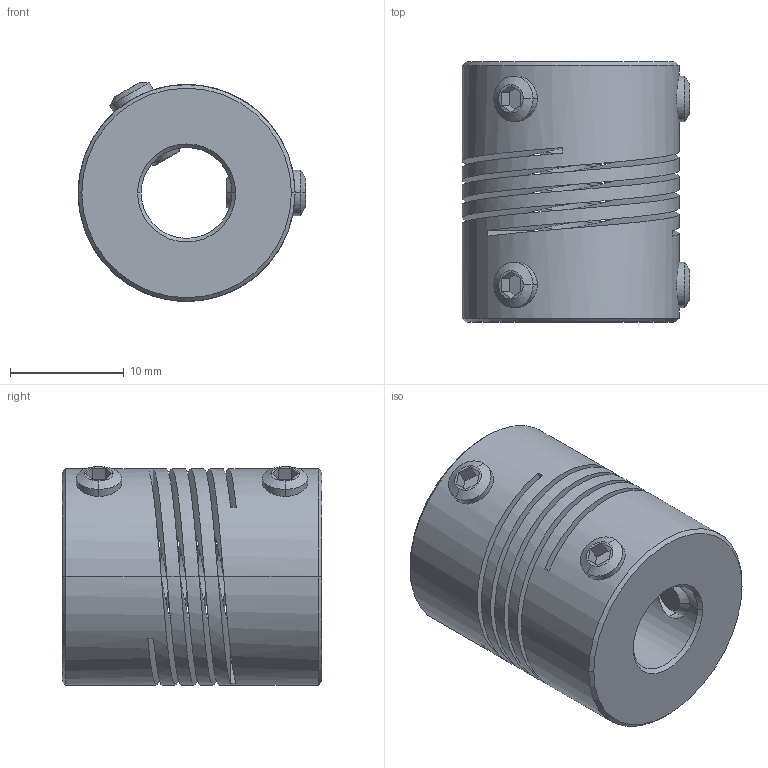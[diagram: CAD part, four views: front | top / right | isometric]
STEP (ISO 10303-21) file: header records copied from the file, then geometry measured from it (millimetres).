
FILE_DESCRIPTION((''),'2;1');
FILE_NAME('724_19_ASM','2006-12-05T',('Gary Melling'),(''),'PRO/ENGINEER BY PARAMETRIC TECHNOLOGY CORPORATION, 2006240','PRO/ENGINEER BY PARAMETRIC TECHNOLOGY CORPORATION, 2006240','');
FILE_SCHEMA(('CONFIG_CONTROL_DESIGN'));
Length unit declared in the file: millimetre
Products named in the file (3): 724_19; GS_4; 724_19_ASM
Assembly tree (5 placements, depth 2):
  724_19_ASM
    724_19
    GS_4  x4
Bounding box: 20.05 x 22.9 x 19.27 mm (x, y, z)
Volume: 4809.9 mm3; surface area: 4871.8 mm2
Topology: 5 solids, 5 shells, 112 faces, 294 edges, 188 vertices
Faces by surface type: plane 46, cylinder 36, cone 24, bspline 6
Entity records: 3723 total; most frequent: CARTESIAN_POINT 1934, ORIENTED_EDGE 396, DIRECTION 296, EDGE_CURVE 198, VERTEX_POINT 128, AXIS2_PLACEMENT_3D 101, VECTOR 94, LINE 94
